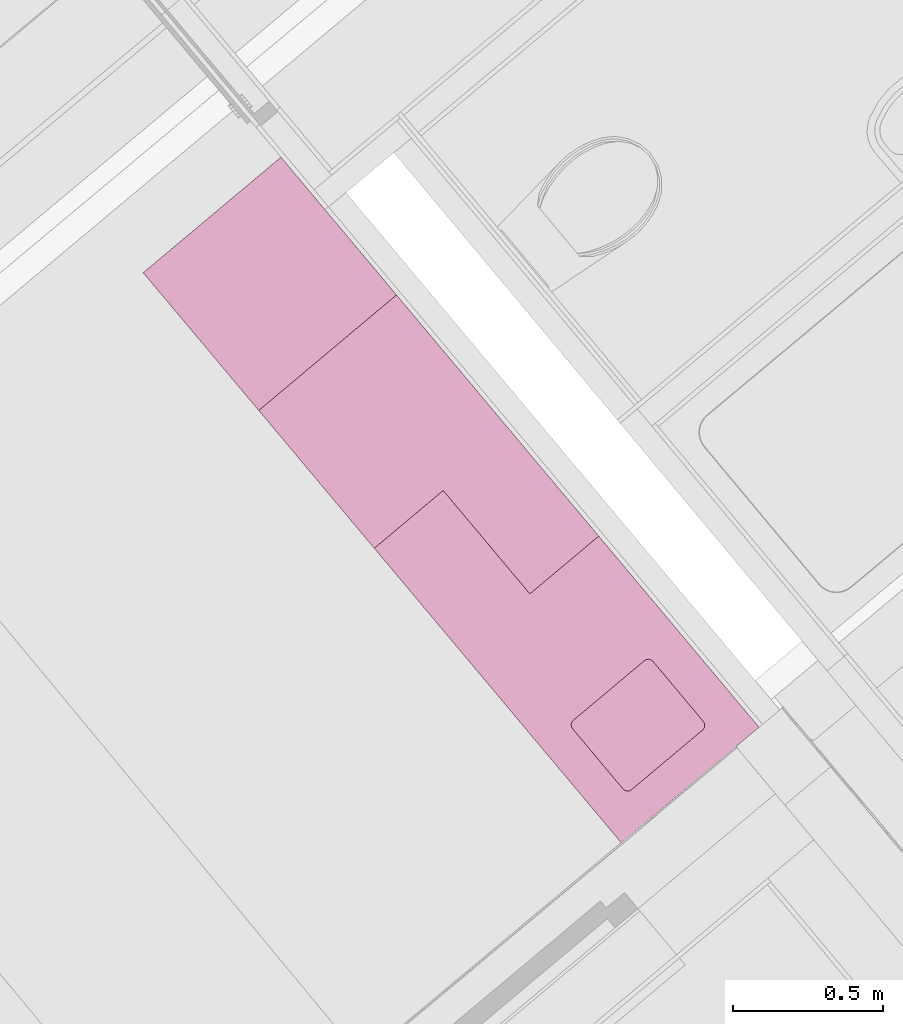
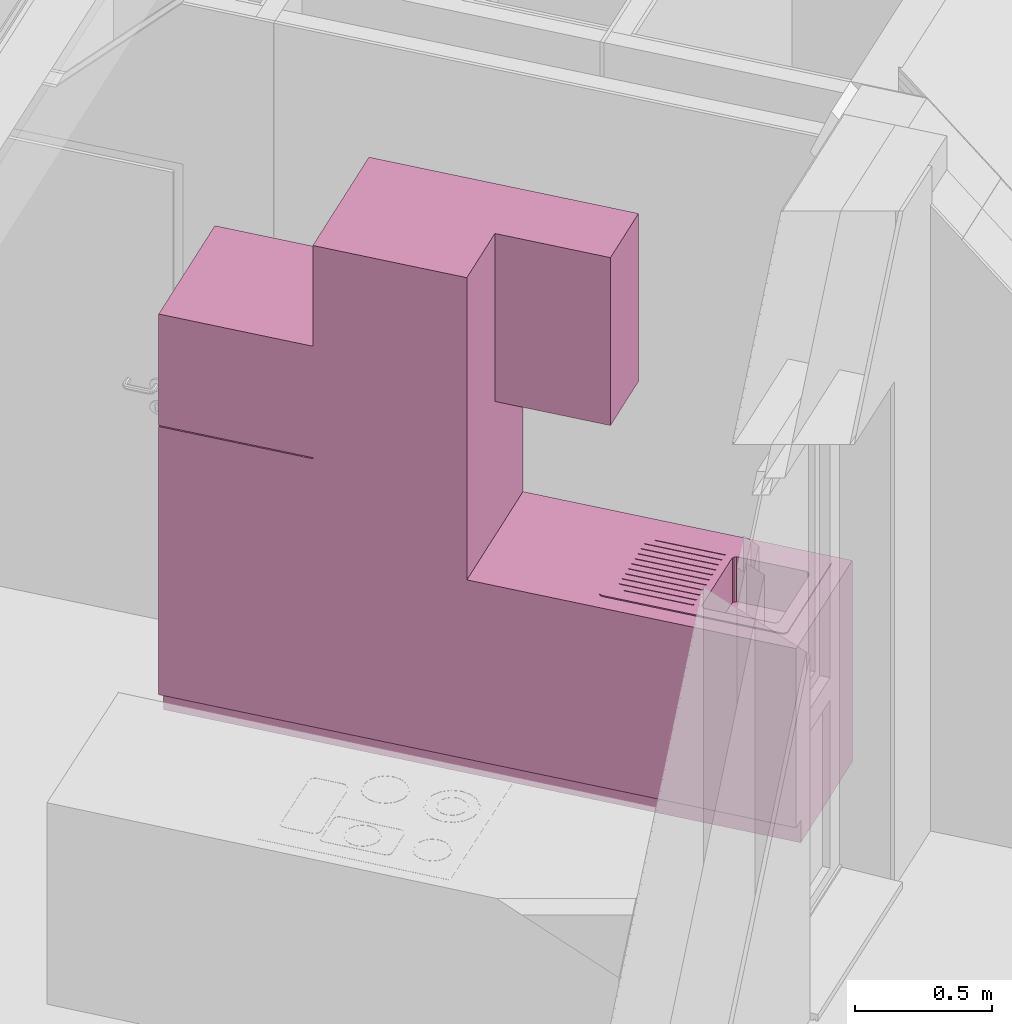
# One storey, part 47 of 47: 1 furniture element.
"""IFC4 building model written with IfcOpenShell, lengths in metres."""

from ifc_helpers import new_model, entity, si_unit, converted_unit, derived_unit, direction, frame, origin_with_axes, place, context, subcontext, project, spatial, polygons, type_object, element, save


model = new_model("IFC4")

# Units and contexts
model_context = context("Model", 3, precision=1e-05, world=origin_with_axes(), true_north=direction((0.0, 1.0)))
body_context = subcontext(model_context, "Body", "Model", "MODEL_VIEW")
ifc_project = project(units=[si_unit("LENGTHUNIT", "METRE"), si_unit("AREAUNIT", "SQUARE_METRE"), si_unit("VOLUMEUNIT", "CUBIC_METRE"), converted_unit("PLANEANGLEUNIT", "DEGREE", entity("IfcPlaneAngleMeasure", 0.0174532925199), si_unit("PLANEANGLEUNIT", "RADIAN"), dimensions=[0, 0, 0, 0, 0, 0, 0]), converted_unit("TIMEUNIT", "Year", entity("IfcTimeMeasure", 31556926.0), si_unit("TIMEUNIT", "SECOND"), dimensions=[0, 0, 1, 0, 0, 0, 0]), si_unit("MASSUNIT", "GRAM", prefix="KILO"), si_unit("THERMODYNAMICTEMPERATUREUNIT", "DEGREE_CELSIUS"), si_unit("LUMINOUSINTENSITYUNIT", "LUMEN"), si_unit("ENERGYUNIT", "JOULE", prefix="MEGA"), derived_unit("THERMALCONDUCTANCEUNIT", [(si_unit("POWERUNIT", "WATT"), 1), (si_unit("LENGTHUNIT", "METRE"), -1), (si_unit("THERMODYNAMICTEMPERATUREUNIT", "KELVIN"), -1)]), derived_unit("SPECIFICHEATCAPACITYUNIT", [(si_unit("ENERGYUNIT", "JOULE"), 1), (si_unit("MASSUNIT", "GRAM", prefix="KILO"), -1), (si_unit("THERMODYNAMICTEMPERATUREUNIT", "KELVIN"), -1)]), derived_unit("MASSDENSITYUNIT", [(si_unit("MASSUNIT", "GRAM", prefix="KILO"), 1), (si_unit("VOLUMEUNIT", "CUBIC_METRE"), -1)])], contexts=[model_context])

# Site, building, storey
site_placement = place(None, frame((-0.00153261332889, -0.00661245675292, 0.0), z_axis=(0.0, 0.0, 1.0), x_axis=(1.0, 0.0, 0.0)))
site = spatial("IfcSite", under=ifc_project, at=site_placement, Name="Site", CompositionType="ELEMENT")
building_placement = place(site_placement, origin_with_axes())
building = spatial("IfcBuilding", under=site, at=building_placement, Name="Building", CompositionType="ELEMENT")
storey_placement = place(building_placement, frame((0.0, 0.0, 8.66), z_axis=(0.0, 0.0, 1.0), x_axis=(1.0, 0.0, 0.0)))
storey = spatial("IfcBuildingStorey", under=building, at=storey_placement, Name="DG2", CompositionType="ELEMENT", Elevation=8.66)

# Furniture
furniture_type = type_object("IfcFurnitureType", Name="Konzeptküche 26", AssemblyPlace="NOTDEFINED", PredefinedType="NOTDEFINED")
furniture_placement = place(storey_placement, frame((0.985092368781, 19.6415724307, 0.22), z_axis=(0.0, 0.0, 1.0), x_axis=(-0.642552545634, 0.766241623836, 0.0)))
element("IfcFurniture", 1, at=furniture_placement, inside=storey, type_object=furniture_type, Name="Objekt-0002", PredefinedType="NOTDEFINED", context=body_context, shape_type="Tessellation", body=[
    polygons([(-0.968323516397, 0.0, 0.0), (-0.968323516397, 0.0, 0.1), (-2.25087457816, 0.0, 0.1), (-2.25087457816, 0.0, 0.0), (-0.968323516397, 0.55, 0.0), (-0.968323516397, 0.55, 0.1), (-2.25087457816, 0.55, 0.1), (-2.25087457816, 0.55, 0.0)], [[[1, 2, 3, 4]], [[5, 6, 2, 1]], [[2, 6, 7, 3]], [[4, 3, 7, 8]], [[1, 4, 8, 5]], [[8, 7, 6, 5]]], closed=True),
    polygons([(-0.968323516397, 0.6, 0.85), (-0.968323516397, 0.0, 0.85), (-2.25087457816, 0.0, 0.85), (-2.25087457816, 0.6, 0.85), (-1.47757109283, 0.0549999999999, 0.85), (-1.47757109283, 0.505, 0.85), (-2.16180630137, 0.505, 0.85), (-2.16180630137, 0.0549999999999, 0.85), (-0.968323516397, 0.6, 0.9), (-0.968323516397, 0.0, 0.9), (-2.25087457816, 0.0, 0.9), (-2.25087457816, 0.6, 0.9), (-1.47757109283, 0.505, 0.9), (-1.47757109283, 0.0549999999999, 0.9), (-2.16180630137, 0.505, 0.9), (-2.16180630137, 0.0549999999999, 0.9)], [[[1, 2, 3, 4], [5, 6, 7, 8]], [[2, 1, 9, 10]], [[3, 2, 10, 11]], [[4, 3, 11, 12]], [[1, 4, 12, 9]], [[13, 6, 5, 14]], [[15, 7, 6, 13]], [[16, 8, 7, 15]], [[14, 5, 8, 16]], [[11, 10, 9, 12], [14, 16, 15, 13]]], closed=True),
    polygons([(-0.968323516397, 0.6, 0.1), (-0.968323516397, 0.0, 0.1), (-2.25087457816, 0.0, 0.1), (-2.25087457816, 0.6, 0.1), (-1.47757109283, 0.0549999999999, 0.1), (-1.47757109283, 0.505, 0.1), (-2.16180630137, 0.505, 0.1), (-2.16180630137, 0.0549999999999, 0.1), (-0.968323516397, 0.6, 0.85), (-0.968323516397, 0.0, 0.85), (-2.25087457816, 0.0, 0.85), (-2.25087457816, 0.6, 0.85), (-1.47757109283, 0.505, 0.85), (-1.47757109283, 0.0549999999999, 0.85), (-2.16180630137, 0.505, 0.85), (-2.16180630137, 0.0549999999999, 0.85)], [[[1, 2, 3, 4], [5, 6, 7, 8]], [[2, 1, 9, 10]], [[3, 2, 10, 11]], [[4, 3, 11, 12]], [[1, 4, 12, 9]], [[13, 6, 5, 14]], [[15, 7, 6, 13]], [[16, 8, 7, 15]], [[14, 5, 8, 16]], [[11, 10, 9, 12], [14, 16, 15, 13]]], closed=True),
    polygons([(-0.968323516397, 0.0, 1.5), (-0.968323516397, 0.0, 2.25), (-1.4183235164, 0.0, 2.25), (-1.4183235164, 0.0, 1.5), (-0.968323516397, 0.3, 1.5), (-0.968323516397, 0.3, 2.25), (-1.4183235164, 0.3, 2.25), (-1.4183235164, 0.3, 1.5)], [[[1, 2, 3, 4]], [[5, 6, 2, 1]], [[2, 6, 7, 3]], [[4, 3, 7, 8]], [[1, 4, 8, 5]], [[8, 7, 6, 5]]], closed=True),
    polygons([(-0.368323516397, 0.52, 0.0), (-0.368323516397, 0.52, 0.1), (-0.368323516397, 0.55, 0.1), (-0.368323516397, 0.55, 0.0), (0.231676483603, 0.52, 0.0), (0.231676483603, 0.52, 0.1), (0.231676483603, 0.55, 0.1), (0.231676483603, 0.55, 0.0)], [[[1, 2, 3, 4]], [[5, 6, 2, 1]], [[2, 6, 7, 3]], [[4, 3, 7, 8]], [[1, 4, 8, 5]], [[8, 7, 6, 5]]], closed=True),
    polygons([(-0.368323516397, 0.52, 0.0), (-0.368323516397, 0.52, 1.8), (0.231676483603, 0.52, 1.8), (0.231676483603, 0.52, 0.0), (-0.368323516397, 0.0, 0.0), (-0.368323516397, 0.0, 1.8), (0.231676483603, 0.0, 1.8), (0.231676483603, 0.0, 0.0)], [[[1, 2, 3, 4]], [[5, 6, 2, 1]], [[2, 6, 7, 3]], [[4, 3, 7, 8]], [[1, 4, 8, 5]], [[8, 7, 6, 5]]], closed=True),
    polygons([(-0.368323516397, 0.5199, 0.1), (-0.368323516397, 0.5199, 1.2975), (-0.368323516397, 0.6, 1.2975), (-0.368323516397, 0.6, 0.1), (0.231676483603, 0.5199, 0.1), (0.231676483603, 0.5199, 1.2975), (0.231676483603, 0.6, 1.2975), (0.231676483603, 0.6, 0.1)], [[[1, 2, 3, 4]], [[5, 6, 2, 1]], [[2, 6, 7, 3]], [[4, 3, 7, 8]], [[1, 4, 8, 5]], [[8, 7, 6, 5]]], closed=True),
    polygons([(-0.368323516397, 0.5199, 1.3025), (-0.368323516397, 0.5199, 1.8), (-0.368323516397, 0.6, 1.8), (-0.368323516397, 0.6, 1.3025), (0.231676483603, 0.5199, 1.3025), (0.231676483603, 0.5199, 1.8), (0.231676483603, 0.6, 1.8), (0.231676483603, 0.6, 1.3025)], [[[1, 2, 3, 4]], [[5, 6, 2, 1]], [[2, 6, 7, 3]], [[4, 3, 7, 8]], [[1, 4, 8, 5]], [[8, 7, 6, 5]]], closed=True),
    polygons([(-2.11680630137, 0.48, 0.705), (-2.11680630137, 0.48, 0.9), (-1.8546886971, 0.48, 0.9), (-1.8546886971, 0.48, 0.705), (-2.12445997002, 0.47847759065, 0.705), (-2.12445997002, 0.47847759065, 0.9), (-1.84703502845, 0.47847759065, 0.9), (-1.84703502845, 0.47847759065, 0.705), (-1.84054656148, 0.474142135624, 0.705), (-1.83621110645, 0.467653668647, 0.705), (-1.8346886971, 0.46, 0.705), (-1.8346886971, 0.15, 0.705), (-1.83621110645, 0.142346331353, 0.705), (-1.84054656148, 0.135857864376, 0.705), (-1.84703502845, 0.13152240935, 0.705), (-1.8546886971, 0.13, 0.705), (-2.11680630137, 0.13, 0.705), (-2.12445997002, 0.13152240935, 0.705), (-2.130948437, 0.135857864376, 0.705), (-2.13528389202, 0.142346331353, 0.705), (-2.13680630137, 0.15, 0.705), (-2.13680630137, 0.46, 0.705), (-2.13528389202, 0.467653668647, 0.705), (-2.130948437, 0.474142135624, 0.705), (-2.130948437, 0.474142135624, 0.9), (-1.84054656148, 0.474142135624, 0.9), (-1.83621110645, 0.467653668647, 0.9), (-1.8346886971, 0.46, 0.9), (-1.8346886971, 0.15, 0.9), (-1.83621110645, 0.142346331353, 0.9), (-1.84054656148, 0.135857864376, 0.9), (-1.84703502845, 0.13152240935, 0.9), (-1.8546886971, 0.13, 0.9), (-2.11680630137, 0.13, 0.9), (-2.12445997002, 0.13152240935, 0.9), (-2.130948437, 0.135857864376, 0.9), (-2.13528389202, 0.142346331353, 0.9), (-2.13680630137, 0.15, 0.9), (-2.13680630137, 0.46, 0.9), (-2.13528389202, 0.467653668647, 0.9)], [[[1, 2, 3, 4]], [[5, 6, 2, 1]], [[4, 3, 7, 8]], [[1, 4, 8, 9, 10, 11, 12, 13, 14, 15, 16, 17, 18, 19, 20, 21, 22, 23, 24, 5]], [[24, 25, 6, 5]], [[8, 7, 26, 9]], [[9, 26, 27, 10]], [[10, 27, 28, 11]], [[11, 28, 29, 12]], [[12, 29, 30, 13]], [[13, 30, 31, 14]], [[14, 31, 32, 15]], [[15, 32, 33, 16]], [[16, 33, 34, 17]], [[17, 34, 35, 18]], [[18, 35, 36, 19]], [[19, 36, 37, 20]], [[20, 37, 38, 21]], [[21, 38, 39, 22]], [[22, 39, 40, 23]], [[23, 40, 25, 24]]], closed=False),
    polygons([(-2.16680630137, 0.53, 0.9), (-2.16680630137, 0.53, 0.905), (-1.47257109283, 0.53, 0.905), (-1.47257109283, 0.53, 0.9), (-2.17445997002, 0.52847759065, 0.9), (-2.17445997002, 0.52847759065, 0.905), (-2.180948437, 0.524142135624, 0.905), (-2.18528389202, 0.517653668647, 0.905), (-2.18680630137, 0.51, 0.905), (-2.18680630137, 0.0499999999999, 0.905), (-2.18528389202, 0.0423463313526, 0.905), (-2.180948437, 0.0358578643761, 0.905), (-2.17445997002, 0.0315224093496, 0.905), (-2.16680630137, 0.0299999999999, 0.905), (-1.47257109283, 0.0299999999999, 0.905), (-1.46491742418, 0.0315224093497, 0.905), (-1.45842895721, 0.0358578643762, 0.905), (-1.45409350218, 0.0423463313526, 0.905), (-1.45257109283, 0.0499999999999, 0.905), (-1.45257109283, 0.51, 0.905), (-1.45409350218, 0.517653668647, 0.905), (-1.45842895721, 0.524142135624, 0.905), (-1.46491742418, 0.52847759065, 0.905), (-2.11680630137, 0.48, 0.905), (-1.8546886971, 0.48, 0.905), (-1.84703502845, 0.47847759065, 0.905), (-1.84054656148, 0.474142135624, 0.905), (-1.83621110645, 0.467653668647, 0.905), (-1.8346886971, 0.46, 0.905), (-1.8346886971, 0.15, 0.905), (-1.83621110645, 0.142346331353, 0.905), (-1.84054656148, 0.135857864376, 0.905), (-1.84703502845, 0.13152240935, 0.905), (-1.8546886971, 0.13, 0.905), (-2.11680630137, 0.13, 0.905), (-2.12445997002, 0.13152240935, 0.905), (-2.130948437, 0.135857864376, 0.905), (-2.13528389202, 0.142346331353, 0.905), (-2.13680630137, 0.15, 0.905), (-2.13680630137, 0.46, 0.905), (-2.13528389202, 0.467653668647, 0.905), (-2.130948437, 0.474142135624, 0.905), (-2.12445997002, 0.47847759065, 0.905), (-1.46491742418, 0.52847759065, 0.9), (-1.45842895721, 0.524142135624, 0.9), (-1.45409350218, 0.517653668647, 0.9), (-1.45257109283, 0.51, 0.9), (-1.45257109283, 0.0499999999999, 0.9), (-1.45409350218, 0.0423463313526, 0.9), (-1.45842895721, 0.0358578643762, 0.9), (-1.46491742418, 0.0315224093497, 0.9), (-1.47257109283, 0.0299999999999, 0.9), (-2.16680630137, 0.0299999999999, 0.9), (-2.17445997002, 0.0315224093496, 0.9), (-2.180948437, 0.0358578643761, 0.9), (-2.18528389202, 0.0423463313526, 0.9), (-2.18680630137, 0.0499999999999, 0.9), (-2.18680630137, 0.51, 0.9), (-2.18528389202, 0.517653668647, 0.9), (-2.180948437, 0.524142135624, 0.9), (-2.11680630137, 0.48, 0.9), (-2.12445997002, 0.47847759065, 0.9), (-2.130948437, 0.474142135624, 0.9), (-2.13528389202, 0.467653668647, 0.9), (-2.13680630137, 0.46, 0.9), (-2.13680630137, 0.15, 0.9), (-2.13528389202, 0.142346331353, 0.9), (-2.130948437, 0.135857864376, 0.9), (-2.12445997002, 0.13152240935, 0.9), (-2.11680630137, 0.13, 0.9), (-1.8546886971, 0.13, 0.9), (-1.84703502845, 0.13152240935, 0.9), (-1.84054656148, 0.135857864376, 0.9), (-1.83621110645, 0.142346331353, 0.9), (-1.8346886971, 0.15, 0.9), (-1.8346886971, 0.46, 0.9), (-1.83621110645, 0.467653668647, 0.9), (-1.84054656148, 0.474142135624, 0.9), (-1.84703502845, 0.47847759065, 0.9), (-1.8546886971, 0.48, 0.9)], [[[1, 2, 3, 4]], [[5, 6, 2, 1]], [[2, 6, 7, 8, 9, 10, 11, 12, 13, 14, 15, 16, 17, 18, 19, 20, 21, 22, 23, 3], [24, 25, 26, 27, 28, 29, 30, 31, 32, 33, 34, 35, 36, 37, 38, 39, 40, 41, 42, 43]], [[4, 3, 23, 44]], [[1, 4, 44, 45, 46, 47, 48, 49, 50, 51, 52, 53, 54, 55, 56, 57, 58, 59, 60, 5], [61, 62, 63, 64, 65, 66, 67, 68, 69, 70, 71, 72, 73, 74, 75, 76, 77, 78, 79, 80]], [[60, 7, 6, 5]], [[59, 8, 7, 60]], [[58, 9, 8, 59]], [[57, 10, 9, 58]], [[56, 11, 10, 57]], [[55, 12, 11, 56]], [[54, 13, 12, 55]], [[53, 14, 13, 54]], [[52, 15, 14, 53]], [[51, 16, 15, 52]], [[50, 17, 16, 51]], [[49, 18, 17, 50]], [[48, 19, 18, 49]], [[47, 20, 19, 48]], [[46, 21, 20, 47]], [[45, 22, 21, 46]], [[44, 23, 22, 45]], [[80, 25, 24, 61]], [[79, 26, 25, 80]], [[78, 27, 26, 79]], [[77, 28, 27, 78]], [[76, 29, 28, 77]], [[75, 30, 29, 76]], [[74, 31, 30, 75]], [[73, 32, 31, 74]], [[72, 33, 32, 73]], [[71, 34, 33, 72]], [[70, 35, 34, 71]], [[69, 36, 35, 70]], [[68, 37, 36, 69]], [[67, 38, 37, 68]], [[66, 39, 38, 67]], [[65, 40, 39, 66]], [[64, 41, 40, 65]], [[63, 42, 41, 64]], [[62, 43, 42, 63]], [[61, 24, 43, 62]]], closed=True),
    polygons([(-1.8046886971, 0.475, 0.905), (-1.8046886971, 0.475, 0.907), (-1.53257109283, 0.475, 0.907), (-1.53257109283, 0.475, 0.905), (-1.8046886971, 0.47, 0.905), (-1.8046886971, 0.47, 0.907), (-1.53257109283, 0.47, 0.907), (-1.53257109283, 0.47, 0.905)], [[[1, 2, 3, 4]], [[5, 6, 2, 1]], [[2, 6, 7, 3]], [[4, 3, 7, 8]], [[1, 4, 8, 5]], [[8, 7, 6, 5]]], closed=True),
    polygons([(-1.8046886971, 0.441, 0.905), (-1.8046886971, 0.441, 0.907), (-1.50257109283, 0.441, 0.907), (-1.50257109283, 0.441, 0.905), (-1.8046886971, 0.436, 0.905), (-1.8046886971, 0.436, 0.907), (-1.50257109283, 0.436, 0.907), (-1.50257109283, 0.436, 0.905)], [[[1, 2, 3, 4]], [[5, 6, 2, 1]], [[2, 6, 7, 3]], [[4, 3, 7, 8]], [[1, 4, 8, 5]], [[8, 7, 6, 5]]], closed=True),
    polygons([(-1.8046886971, 0.407, 0.905), (-1.8046886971, 0.407, 0.907), (-1.50257109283, 0.407, 0.907), (-1.50257109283, 0.407, 0.905), (-1.8046886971, 0.402, 0.905), (-1.8046886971, 0.402, 0.907), (-1.50257109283, 0.402, 0.907), (-1.50257109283, 0.402, 0.905)], [[[1, 2, 3, 4]], [[5, 6, 2, 1]], [[2, 6, 7, 3]], [[4, 3, 7, 8]], [[1, 4, 8, 5]], [[8, 7, 6, 5]]], closed=True),
    polygons([(-1.8046886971, 0.373, 0.905), (-1.8046886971, 0.373, 0.907), (-1.50257109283, 0.373, 0.907), (-1.50257109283, 0.373, 0.905), (-1.8046886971, 0.368, 0.905), (-1.8046886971, 0.368, 0.907), (-1.50257109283, 0.368, 0.907), (-1.50257109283, 0.368, 0.905)], [[[1, 2, 3, 4]], [[5, 6, 2, 1]], [[2, 6, 7, 3]], [[4, 3, 7, 8]], [[1, 4, 8, 5]], [[8, 7, 6, 5]]], closed=True),
    polygons([(-1.8046886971, 0.339, 0.905), (-1.8046886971, 0.339, 0.907), (-1.50257109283, 0.339, 0.907), (-1.50257109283, 0.339, 0.905), (-1.8046886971, 0.334, 0.905), (-1.8046886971, 0.334, 0.907), (-1.50257109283, 0.334, 0.907), (-1.50257109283, 0.334, 0.905)], [[[1, 2, 3, 4]], [[5, 6, 2, 1]], [[2, 6, 7, 3]], [[4, 3, 7, 8]], [[1, 4, 8, 5]], [[8, 7, 6, 5]]], closed=True),
    polygons([(-1.8046886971, 0.305, 0.905), (-1.8046886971, 0.305, 0.907), (-1.50257109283, 0.305, 0.907), (-1.50257109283, 0.305, 0.905), (-1.8046886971, 0.3, 0.905), (-1.8046886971, 0.3, 0.907), (-1.50257109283, 0.3, 0.907), (-1.50257109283, 0.3, 0.905)], [[[1, 2, 3, 4]], [[5, 6, 2, 1]], [[2, 6, 7, 3]], [[4, 3, 7, 8]], [[1, 4, 8, 5]], [[8, 7, 6, 5]]], closed=True),
    polygons([(-1.8046886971, 0.271, 0.905), (-1.8046886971, 0.271, 0.907), (-1.50257109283, 0.271, 0.907), (-1.50257109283, 0.271, 0.905), (-1.8046886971, 0.266, 0.905), (-1.8046886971, 0.266, 0.907), (-1.50257109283, 0.266, 0.907), (-1.50257109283, 0.266, 0.905)], [[[1, 2, 3, 4]], [[5, 6, 2, 1]], [[2, 6, 7, 3]], [[4, 3, 7, 8]], [[1, 4, 8, 5]], [[8, 7, 6, 5]]], closed=True),
    polygons([(-1.8046886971, 0.237, 0.905), (-1.8046886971, 0.237, 0.907), (-1.50257109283, 0.237, 0.907), (-1.50257109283, 0.237, 0.905), (-1.8046886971, 0.232, 0.905), (-1.8046886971, 0.232, 0.907), (-1.50257109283, 0.232, 0.907), (-1.50257109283, 0.232, 0.905)], [[[1, 2, 3, 4]], [[5, 6, 2, 1]], [[2, 6, 7, 3]], [[4, 3, 7, 8]], [[1, 4, 8, 5]], [[8, 7, 6, 5]]], closed=True),
    polygons([(-1.8046886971, 0.203, 0.905), (-1.8046886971, 0.203, 0.907), (-1.50257109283, 0.203, 0.907), (-1.50257109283, 0.203, 0.905), (-1.8046886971, 0.198, 0.905), (-1.8046886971, 0.198, 0.907), (-1.50257109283, 0.198, 0.907), (-1.50257109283, 0.198, 0.905)], [[[1, 2, 3, 4]], [[5, 6, 2, 1]], [[2, 6, 7, 3]], [[4, 3, 7, 8]], [[1, 4, 8, 5]], [[8, 7, 6, 5]]], closed=True),
    polygons([(-1.8046886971, 0.169, 0.905), (-1.8046886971, 0.169, 0.907), (-1.50257109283, 0.169, 0.907), (-1.50257109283, 0.169, 0.905), (-1.8046886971, 0.164, 0.905), (-1.8046886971, 0.164, 0.907), (-1.50257109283, 0.164, 0.907), (-1.50257109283, 0.164, 0.905)], [[[1, 2, 3, 4]], [[5, 6, 2, 1]], [[2, 6, 7, 3]], [[4, 3, 7, 8]], [[1, 4, 8, 5]], [[8, 7, 6, 5]]], closed=True),
    polygons([(-1.8046886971, 0.135, 0.905), (-1.8046886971, 0.135, 0.907), (-1.53257109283, 0.135, 0.907), (-1.53257109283, 0.135, 0.905), (-1.8046886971, 0.13, 0.905), (-1.8046886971, 0.13, 0.907), (-1.53257109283, 0.13, 0.907), (-1.53257109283, 0.13, 0.905)], [[[1, 2, 3, 4]], [[5, 6, 2, 1]], [[2, 6, 7, 3]], [[4, 3, 7, 8]], [[1, 4, 8, 5]], [[8, 7, 6, 5]]], closed=True),
    polygons([(-0.968323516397, 0.55, 0.0), (-0.968323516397, 0.55, 0.1), (-0.368323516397, 0.55, 0.1), (-0.368323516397, 0.55, 0.0), (-0.968323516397, 0.0, 0.0), (-0.968323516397, 0.0, 0.1), (-0.368323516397, 0.0, 0.1), (-0.368323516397, 0.0, 0.0)], [[[1, 2, 3, 4]], [[5, 6, 2, 1]], [[2, 6, 7, 3]], [[4, 3, 7, 8]], [[1, 4, 8, 5]], [[8, 7, 6, 5]]], closed=True),
    polygons([(-0.968323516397, 0.6, 0.1), (-0.968323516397, 0.6, 2.25), (-0.368323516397, 0.6, 2.25), (-0.368323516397, 0.6, 0.1), (-0.968323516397, 0.0, 0.1), (-0.968323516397, 0.0, 2.25), (-0.368323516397, 0.0, 2.25), (-0.368323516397, 0.0, 0.1)], [[[1, 2, 3, 4]], [[5, 6, 2, 1]], [[2, 6, 7, 3]], [[4, 3, 7, 8]], [[1, 4, 8, 5]], [[8, 7, 6, 5]]], closed=True),
])

save(model, "model.ifc")
